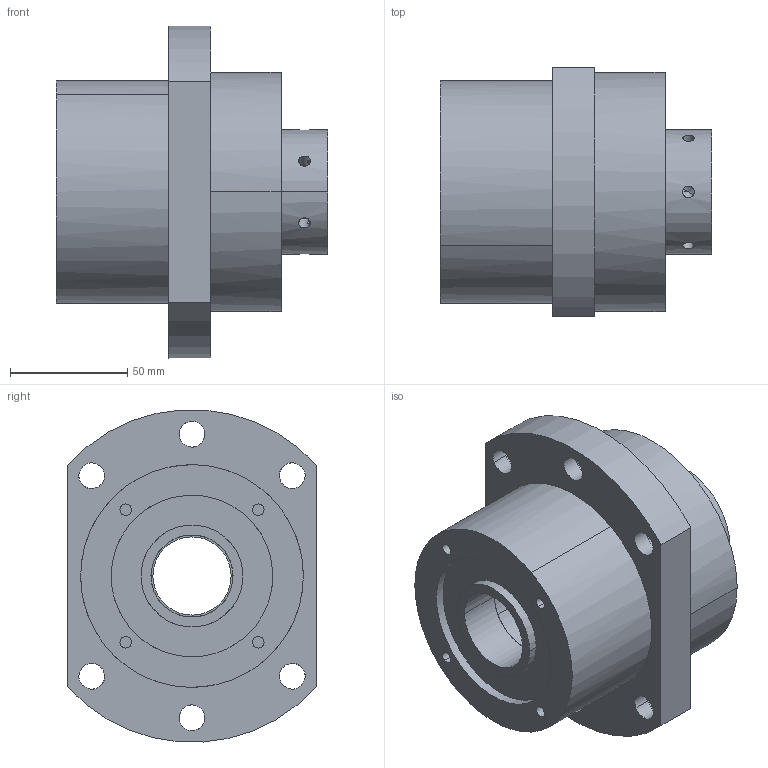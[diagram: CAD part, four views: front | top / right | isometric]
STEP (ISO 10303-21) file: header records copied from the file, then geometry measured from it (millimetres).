
FILE_DESCRIPTION(('CATIA V5 STEP Exchange'),'2;1');
FILE_NAME('D:\서포트 완성도면\FK\WBK35DFT.stp','2014-03-26T10:22:05+00:00',('none'),('none'),'CATIA Version 5 Release 18 GA (IN-10)','CATIA V5 STEP AP203','none');
FILE_SCHEMA(('CONFIG_CONTROL_DESIGN'));
Length unit declared in the file: millimetre
Products named in the file (1): WBK35DFT
Assembly tree (4 placements, depth 2):
  WBK35DFT
    #56
    #3590  x2
    #3866
Bounding box: 116 x 106 x 141.68 mm (x, y, z)
Volume: 721331.5 mm3; surface area: 94612.2 mm2
Topology: 4 solids, 4 shells, 146 faces, 360 edges, 230 vertices
Faces by surface type: cylinder 92, plane 30, cone 24
Entity records: 6183 total; most frequent: CARTESIAN_POINT 3109, ORIENTED_EDGE 672, DIRECTION 447, EDGE_CURVE 336, VERTEX_POINT 222, AXIS2_PLACEMENT_3D 198, EDGE_LOOP 190, B_SPLINE_CURVE_WITH_KNOTS 163
